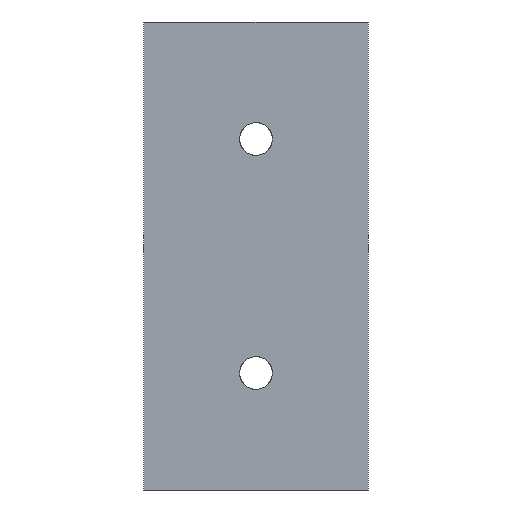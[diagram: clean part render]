
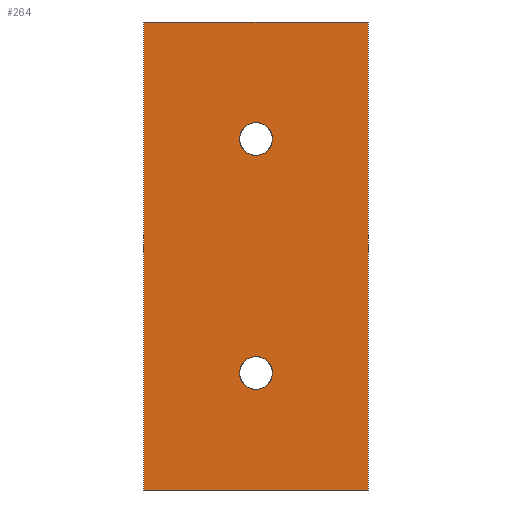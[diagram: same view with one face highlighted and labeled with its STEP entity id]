
A CAD part, front view. The second image highlights one B-rep face of the part: STEP entity #264.
In plain terms, the highlighted face is a extrusion surface.
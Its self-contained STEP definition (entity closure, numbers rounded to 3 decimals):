
#141=CARTESIAN_POINT('Control Point',(-24.,-5.,50.)) ;
#142=CARTESIAN_POINT('Control Point',(-24.,-5.,-50.)) ;
#146=CARTESIAN_POINT('Line Origine',(0.,-5.,-50.)) ;
#150=CARTESIAN_POINT('Vertex',(-24.,-5.,-50.)) ;
#152=CARTESIAN_POINT('Vertex',(24.,-5.,-50.)) ;
#155=CARTESIAN_POINT('Line Origine',(24.,-5.,0.)) ;
#159=CARTESIAN_POINT('Vertex',(24.,-5.,50.)) ;
#162=CARTESIAN_POINT('Line Origine',(0.,-5.,50.)) ;
#166=CARTESIAN_POINT('Vertex',(-24.,-5.,50.)) ;
#169=CARTESIAN_POINT('Line Origine',(-24.,-5.,0.)) ;
#181=CARTESIAN_POINT('Control Point',(3.5,-5.,25.)) ;
#182=CARTESIAN_POINT('Control Point',(3.5,-5.,24.267)) ;
#183=CARTESIAN_POINT('Control Point',(3.308,-5.,23.534)) ;
#184=CARTESIAN_POINT('Control Point',(2.923,-5.,22.868)) ;
#185=CARTESIAN_POINT('Control Point',(2.115,-5.,22.069)) ;
#186=CARTESIAN_POINT('Control Point',(1.09,-5.,21.644)) ;
#187=CARTESIAN_POINT('Control Point',(0.732,-5.,21.548)) ;
#188=CARTESIAN_POINT('Control Point',(-0.001,-5.,21.452)) ;
#189=CARTESIAN_POINT('Control Point',(-0.734,-5.,21.548)) ;
#190=CARTESIAN_POINT('Control Point',(-1.093,-5.,21.644)) ;
#191=CARTESIAN_POINT('Control Point',(-2.116,-5.,22.07)) ;
#192=CARTESIAN_POINT('Control Point',(-2.924,-5.,22.869)) ;
#193=CARTESIAN_POINT('Control Point',(-3.308,-5.,23.535)) ;
#194=CARTESIAN_POINT('Control Point',(-3.5,-5.,24.267)) ;
#195=CARTESIAN_POINT('Control Point',(-3.5,-5.,25.)) ;
#196=CARTESIAN_POINT('Vertex',(3.5,-5.,25.)) ;
#198=CARTESIAN_POINT('Vertex',(-3.5,-5.,25.)) ;
#202=CARTESIAN_POINT('Control Point',(-3.5,-5.,25.)) ;
#203=CARTESIAN_POINT('Control Point',(-3.5,-5.,25.733)) ;
#204=CARTESIAN_POINT('Control Point',(-3.308,-5.,26.466)) ;
#205=CARTESIAN_POINT('Control Point',(-2.923,-5.,27.132)) ;
#206=CARTESIAN_POINT('Control Point',(-2.115,-5.,27.931)) ;
#207=CARTESIAN_POINT('Control Point',(-1.09,-5.,28.356)) ;
#208=CARTESIAN_POINT('Control Point',(-0.732,-5.,28.452)) ;
#209=CARTESIAN_POINT('Control Point',(0.001,-5.,28.548)) ;
#210=CARTESIAN_POINT('Control Point',(0.734,-5.,28.452)) ;
#211=CARTESIAN_POINT('Control Point',(1.093,-5.,28.356)) ;
#212=CARTESIAN_POINT('Control Point',(2.116,-5.,27.93)) ;
#213=CARTESIAN_POINT('Control Point',(2.924,-5.,27.131)) ;
#214=CARTESIAN_POINT('Control Point',(3.308,-5.,26.465)) ;
#215=CARTESIAN_POINT('Control Point',(3.5,-5.,25.733)) ;
#216=CARTESIAN_POINT('Control Point',(3.5,-5.,25.)) ;
#223=CARTESIAN_POINT('Control Point',(3.5,-5.,-25.)) ;
#224=CARTESIAN_POINT('Control Point',(3.5,-5.,-25.733)) ;
#225=CARTESIAN_POINT('Control Point',(3.308,-5.,-26.466)) ;
#226=CARTESIAN_POINT('Control Point',(2.923,-5.,-27.132)) ;
#227=CARTESIAN_POINT('Control Point',(2.115,-5.,-27.931)) ;
#228=CARTESIAN_POINT('Control Point',(1.09,-5.,-28.356)) ;
#229=CARTESIAN_POINT('Control Point',(0.732,-5.,-28.452)) ;
#230=CARTESIAN_POINT('Control Point',(-0.001,-5.,-28.548)) ;
#231=CARTESIAN_POINT('Control Point',(-0.734,-5.,-28.452)) ;
#232=CARTESIAN_POINT('Control Point',(-1.093,-5.,-28.356)) ;
#233=CARTESIAN_POINT('Control Point',(-2.116,-5.,-27.93)) ;
#234=CARTESIAN_POINT('Control Point',(-2.924,-5.,-27.131)) ;
#235=CARTESIAN_POINT('Control Point',(-3.308,-5.,-26.465)) ;
#236=CARTESIAN_POINT('Control Point',(-3.5,-5.,-25.733)) ;
#237=CARTESIAN_POINT('Control Point',(-3.5,-5.,-25.)) ;
#238=CARTESIAN_POINT('Vertex',(3.5,-5.,-25.)) ;
#240=CARTESIAN_POINT('Vertex',(-3.5,-5.,-25.)) ;
#244=CARTESIAN_POINT('Control Point',(-3.5,-5.,-25.)) ;
#245=CARTESIAN_POINT('Control Point',(-3.5,-5.,-24.267)) ;
#246=CARTESIAN_POINT('Control Point',(-3.308,-5.,-23.534)) ;
#247=CARTESIAN_POINT('Control Point',(-2.923,-5.,-22.868)) ;
#248=CARTESIAN_POINT('Control Point',(-2.115,-5.,-22.069)) ;
#249=CARTESIAN_POINT('Control Point',(-1.09,-5.,-21.644)) ;
#250=CARTESIAN_POINT('Control Point',(-0.732,-5.,-21.548)) ;
#251=CARTESIAN_POINT('Control Point',(0.001,-5.,-21.452)) ;
#252=CARTESIAN_POINT('Control Point',(0.734,-5.,-21.548)) ;
#253=CARTESIAN_POINT('Control Point',(1.093,-5.,-21.644)) ;
#254=CARTESIAN_POINT('Control Point',(2.116,-5.,-22.07)) ;
#255=CARTESIAN_POINT('Control Point',(2.924,-5.,-22.869)) ;
#256=CARTESIAN_POINT('Control Point',(3.308,-5.,-23.535)) ;
#257=CARTESIAN_POINT('Control Point',(3.5,-5.,-24.267)) ;
#258=CARTESIAN_POINT('Control Point',(3.5,-5.,-25.)) ;
#143=DIRECTION('Vector Direction',(1.,0.,0.)) ;
#147=DIRECTION('Vector Direction',(1.,0.,0.)) ;
#156=DIRECTION('Vector Direction',(0.,0.,-1.)) ;
#163=DIRECTION('Vector Direction',(1.,0.,0.)) ;
#170=DIRECTION('Vector Direction',(0.,0.,-1.)) ;
#175=ORIENTED_EDGE('',*,*,#154,.T.) ;
#176=ORIENTED_EDGE('',*,*,#161,.T.) ;
#177=ORIENTED_EDGE('',*,*,#168,.T.) ;
#178=ORIENTED_EDGE('',*,*,#173,.T.) ;
#219=ORIENTED_EDGE('',*,*,#200,.T.) ;
#220=ORIENTED_EDGE('',*,*,#217,.T.) ;
#261=ORIENTED_EDGE('',*,*,#242,.T.) ;
#262=ORIENTED_EDGE('',*,*,#259,.T.) ;
#221=FACE_BOUND('',#218,.T.) ;
#263=FACE_BOUND('',#260,.T.) ;
#144=VECTOR('Extrusion Surface Vector',#143,1.) ;
#148=VECTOR('Line Direction',#147,1.) ;
#157=VECTOR('Line Direction',#156,1.) ;
#164=VECTOR('Line Direction',#163,1.) ;
#171=VECTOR('Line Direction',#170,1.) ;
#264=ADVANCED_FACE('Superficie.3',(#179,#221,#263),#145,.T.) ;
#140=B_SPLINE_CURVE_WITH_KNOTS('',1,(#141,#142),.UNSPECIFIED.,.F.,.U.,(2,2),(-50.,50.),.UNSPECIFIED.) ;
#180=B_SPLINE_CURVE_WITH_KNOTS('',5,(#181,#182,#183,#184,#185,#186,#187,#188,#189,#190,#191,#192,#193,#194,#195),.UNSPECIFIED.,.F.,.U.,(6,3,3,3,6),(0.,5.185,7.777,10.369,15.55),.UNSPECIFIED.) ;
#201=B_SPLINE_CURVE_WITH_KNOTS('',5,(#202,#203,#204,#205,#206,#207,#208,#209,#210,#211,#212,#213,#214,#215,#216),.UNSPECIFIED.,.F.,.U.,(6,3,3,3,6),(0.,5.185,7.777,10.369,15.55),.UNSPECIFIED.) ;
#222=B_SPLINE_CURVE_WITH_KNOTS('',5,(#223,#224,#225,#226,#227,#228,#229,#230,#231,#232,#233,#234,#235,#236,#237),.UNSPECIFIED.,.F.,.U.,(6,3,3,3,6),(0.,5.185,7.777,10.369,15.55),.UNSPECIFIED.) ;
#243=B_SPLINE_CURVE_WITH_KNOTS('',5,(#244,#245,#246,#247,#248,#249,#250,#251,#252,#253,#254,#255,#256,#257,#258),.UNSPECIFIED.,.F.,.U.,(6,3,3,3,6),(0.,5.185,7.777,10.369,15.55),.UNSPECIFIED.) ;
#154=EDGE_CURVE('',#151,#153,#149,.T.) ;
#161=EDGE_CURVE('',#153,#160,#158,.F.) ;
#168=EDGE_CURVE('',#160,#167,#165,.F.) ;
#173=EDGE_CURVE('',#167,#151,#172,.T.) ;
#200=EDGE_CURVE('',#197,#199,#180,.T.) ;
#217=EDGE_CURVE('',#199,#197,#201,.T.) ;
#242=EDGE_CURVE('',#239,#241,#222,.T.) ;
#259=EDGE_CURVE('',#241,#239,#243,.T.) ;
#174=EDGE_LOOP('',(#175,#176,#177,#178)) ;
#218=EDGE_LOOP('',(#219,#220)) ;
#260=EDGE_LOOP('',(#261,#262)) ;
#179=FACE_OUTER_BOUND('',#174,.T.) ;
#149=LINE('Line',#146,#148) ;
#158=LINE('Line',#155,#157) ;
#165=LINE('Line',#162,#164) ;
#172=LINE('Line',#169,#171) ;
#145=SURFACE_OF_LINEAR_EXTRUSION('generated tabulated cylinder',#140,#144) ;
#151=VERTEX_POINT('',#150) ;
#153=VERTEX_POINT('',#152) ;
#160=VERTEX_POINT('',#159) ;
#167=VERTEX_POINT('',#166) ;
#197=VERTEX_POINT('',#196) ;
#199=VERTEX_POINT('',#198) ;
#239=VERTEX_POINT('',#238) ;
#241=VERTEX_POINT('',#240) ;
